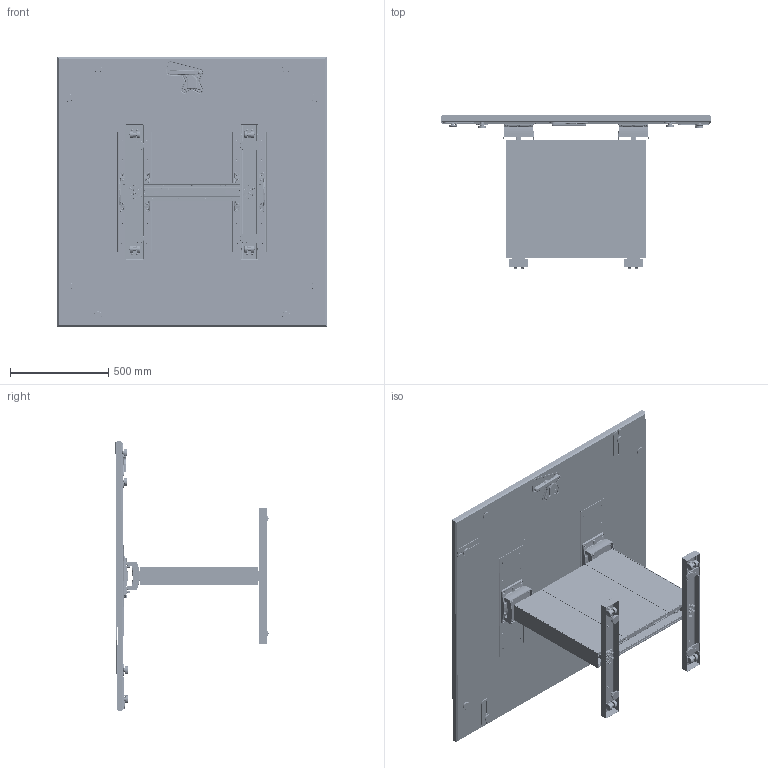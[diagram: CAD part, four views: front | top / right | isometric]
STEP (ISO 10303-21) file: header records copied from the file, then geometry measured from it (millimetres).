
FILE_DESCRIPTION(/* description */ (' - , , '),/* implementation_level */ '2;1');
FILE_NAME(/* name */ '54x54 Frameless.stp',/* time_stamp */ '2024-08-21T13:44:41-04:00',/* author */ ('jbylsma'),/* organization */ (''),/* preprocessor_version */ 'ST-DEVELOPER v20',/* originating_system */ 'Autodesk Inventor 2024',/* authorisation */ '');
FILE_SCHEMA (('AUTOMOTIVE_DESIGN { 1 0 10303 214 3 1 1 }'));
Products named in the file (73): Assembly1; APT5454_NPTN_BASE; HW7991; HW8042; HW8042B; HW8042A; HW8042C; HW8042D; HW7984; HW7978; HW7976B; HW7978A; HW7997; HW8020; HW7998; HW8038; HW8041; HW8010; HW8009; AP9009; AP8009; HW8004; HW8026; HW8033; HW8023; HW8001; HW8006; HW8005; HW0747; 90935A149; HW0758; HW5424N; HW8016; HW8017; HW0267; HW8018; HW2291; HW8014; HW1846N; HW0141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
Assembly tree (314 placements, depth 5):
  Assembly1
    APT5454_NPTN_BASE
      HW7991
      HW8042  x2
        HW8042B
        HW8042A
        HW8042C
        HW8042D
      HW7984
      HW7978
        HW7976B  x2
        HW7978A
      HW7997  x2
      HW8020  x4
      HW7998  x4
      HW8038  x2
      HW8041  x2
      HW8010  x8
      HW8009  x8
      AP9009
      AP8009
      HW8004
      HW8026
      HW8033  x2
      HW8023
      HW8001  x4
      HW8006  x4
      HW8005  x4
      HW0747  x20
      90935A149  x13
      HW0758  x8
      HW5424N  x2
      HW8016  x6
      HW8017  x12
      HW0267  x12
      HW8018  x16
      HW2291  x4
      HW8014  x8
      HW1846N  x6
      HW0141  x4
      HW6825  x8
      HW1660N  x4
      HW0579N  x2
      HW3063N
      HW8058
      HW3793N  x2
      HW7505N  x2
    SU-0000338-80
      PA-0001186-16
        PA-0001187-16
          PA-0001188-16
          RL-0000363-06
          RL-0000363-06_1
          RL-0000363-06_2
          RL-0000363-06_3
          FM-0000254-16
          FM-0000254-16_1
      GL-0000036-16
      HW8021N
        HW8021-C2  x2
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Bounding box: 1371.6 x 780.15 x 1371.69 mm (x, y, z)
Volume: 87911095.5 mm3; surface area: 20995467.2 mm2
Topology: 376 solids, 376 shells, 26194 faces, 66424 edges, 41199 vertices
Faces by surface type: cylinder 9449, plane 6832, bspline 5154, torus 2311, cone 1799, sphere 649
Full cylindrical faces by diameter (mm): 1.041 x4, 1.699 x14, 2.13 x130, 2.381 x40, 2.474 x64, 2.487 x10, 2.642 x8, 2.778 x10, 2.845 x12, 3.092 x72, 3.107 x140, 3.302 x12, 3.394 x156, 3.451 x104, 3.505 x152, 3.556 x2, 3.566 x4, 3.683 x18, 3.797 x1, 3.81 x8, 4.166 x94, 4.445 x10, 4.496 x21, 4.7 x80, 4.775 x2, 4.826 x395, 4.978 x8, 5 x4, 5.105 x30, 5.372 x4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
Entity records: 479397 total; most frequent: CARTESIAN_POINT 245877, ORIENTED_EDGE 49574, DIRECTION 46553, EDGE_CURVE 24787, AXIS2_PLACEMENT_3D 18459, VERTEX_POINT 14937, EDGE_LOOP 11160, FACE_OUTER_BOUND 10319
